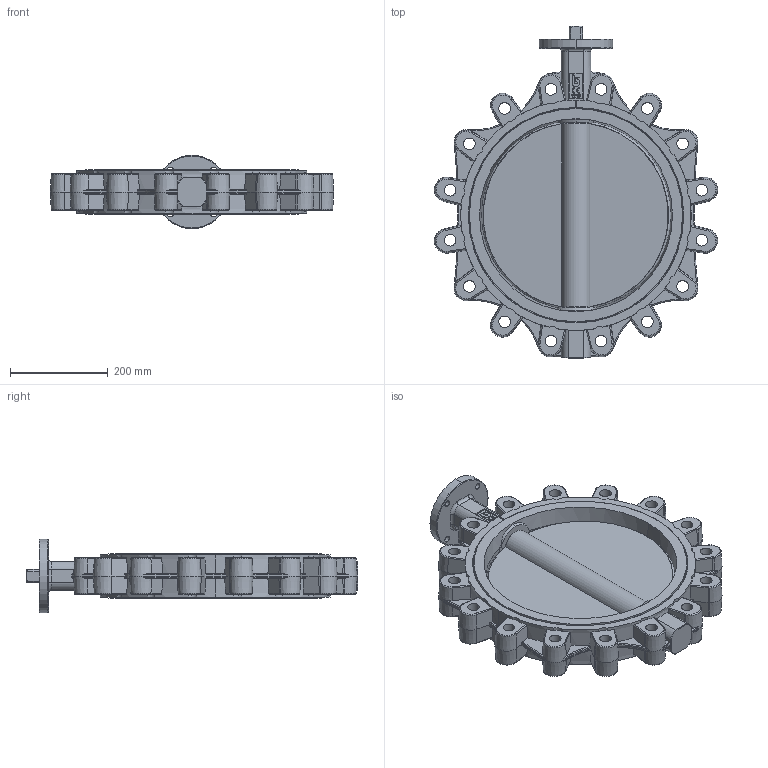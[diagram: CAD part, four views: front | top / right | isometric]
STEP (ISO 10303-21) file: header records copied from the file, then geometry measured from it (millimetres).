
FILE_DESCRIPTION (( 'STEP AP203' ), '1' );
FILE_NAME ('L9.DN400.STEP', '2020-01-29T08:54:58', ( '' ), ( '' ), 'SwSTEP 2.0', 'SolidWorks 2017', '' );
FILE_SCHEMA (( 'CONFIG_CONTROL_DESIGN' ));
Length unit declared in the file: millimetre
Products named in the file (1): L9.DN400
Bounding box: 579.62 x 679 x 150 mm (x, y, z)
Volume: 11024013.3 mm3; surface area: 962950.2 mm2
Topology: 1 solids, 3 shells, 911 faces, 2441 edges, 1574 vertices
Faces by surface type: plane 353, cylinder 251, cone 126, torus 96, bspline 85
Entity records: 36106 total; most frequent: CARTESIAN_POINT 13927, ORIENTED_EDGE 4878, DIRECTION 4332, EDGE_CURVE 2439, AXIS2_PLACEMENT_3D 1628, VERTEX_POINT 1574, VECTOR 1076, LINE 1076
